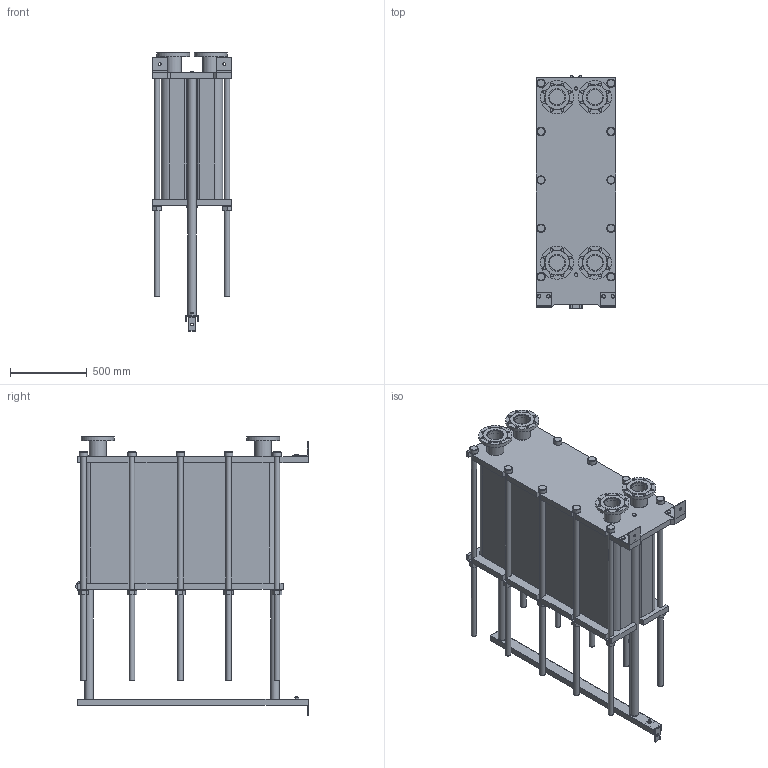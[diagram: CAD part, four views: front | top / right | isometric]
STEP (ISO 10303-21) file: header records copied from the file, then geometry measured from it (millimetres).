
FILE_DESCRIPTION(/* description */ (''),/* implementation_level */ '2;1');
FILE_NAME(/* name */ 'C:\Users\zhuro\Desktop\ENCO\TO\ЭН-04\ЭН-0,5-04-227-1.stp',/* time_stamp */ '2022-06-06T11:05:30+03:00',/* author */ ('zhuro'),/* organization */ (''),/* preprocessor_version */ 'ST-DEVELOPER v18.1',/* originating_system */ 'Autodesk Inventor 2022',/* authorisation */ '');
FILE_SCHEMA (('AUTOMOTIVE_DESIGN { 1 0 10303 214 3 1 1 }'));
Length unit declared in the file: millimetre
Products named in the file (1): ЭН-0,5-04-227-1
Bounding box: 520 x 1510 x 1813.5 mm (x, y, z)
Volume: 469426425.9 mm3; surface area: 11148004 mm2
Topology: 45 solids, 45 shells, 668 faces, 1611 edges, 1048 vertices
Faces by surface type: plane 457, cylinder 166, cone 39, torus 6
Full cylindrical faces by diameter (mm): 8 x4, 10 x2, 16 x8, 18 x35, 36 x25, 40 x2, 42 x1, 45 x4, 54 x10, 57 x2, 60 x10, 68 x2, 100 x4, 110 x8, 215 x4
Entity records: 23607 total; most frequent: CARTESIAN_POINT 7348, DIRECTION 3371, ORIENTED_EDGE 3142, EDGE_CURVE 1571, AXIS2_PLACEMENT_3D 1199, VERTEX_POINT 1044, LINE 973, VECTOR 973
